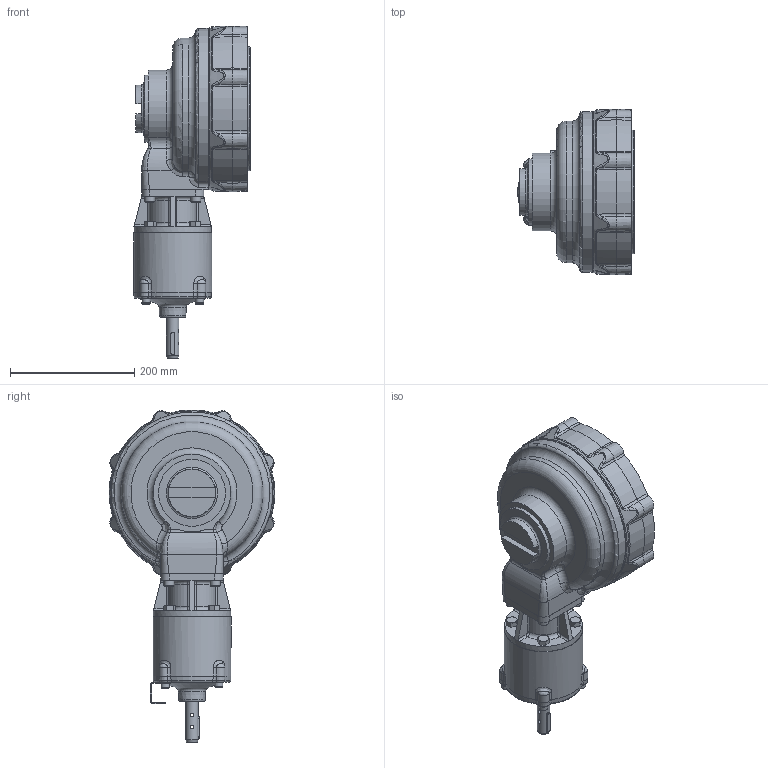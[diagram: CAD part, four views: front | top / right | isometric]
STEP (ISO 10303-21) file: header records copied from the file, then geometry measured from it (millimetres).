
FILE_DESCRIPTION( ( 'Unknown' ), '1' );
FILE_NAME( 'X:/CURRENT/PUB/Hob/HOB-2014/HOB-MPR/HOB-MPR-STP_FILES/PUB-HOB7MPR4-12.5-PAD-F25.stp', 'Unknown', ( 'Unknown' ), ( 'Unknown' ), 'PSStep 16.0.42', 'Unknown', ' ' );
FILE_SCHEMA( ( 'AUTOMOTIVE_DESIGN { 1 0 10303 214 1 1 1 1 }' ) );
Length unit declared in the file: millimetre
Products named in the file (51): 1; 2; 3; 4; 5; 6; 7; 8; 9; 10; 11; 12; 13; 14; 15; 16; 17; 18; trelleborg_trea00200-n7mm_b5c67wtxxcj74kwnwb2box077_01; 19; 20; 21; 22; 23; 24; 25; 26; 27; 28; 29; 30; 31; 32; 33; 34; 35; 36; 37; 38; 39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
Bounding box: 187.96 x 267 x 535.02 mm (x, y, z)
Surface area: 406148.7 mm2 (no closed solid volume)
Topology: 0 solids, 532 shells, 532 faces, 2475 edges, 2390 vertices
Faces by surface type: plane 170, cylinder 108, bspline 104, cone 103, torus 47
Full cylindrical faces by diameter (mm): 6 x2, 13.27 x4, 13.8 x8, 13.835 x8, 16 x4, 20 x1, 90.15 x1, 107.95 x1, 125 x1, 126 x1, 199.95 x1, 219.95 x1
Entity records: 59334 total; most frequent: CARTESIAN_POINT 37037, DIRECTION 3527, VERTEX_POINT 2371, ORIENTED_EDGE 2363, EDGE_CURVE 2363, AXIS2_PLACEMENT_3D 1369, CIRCLE 890, LINE 789
